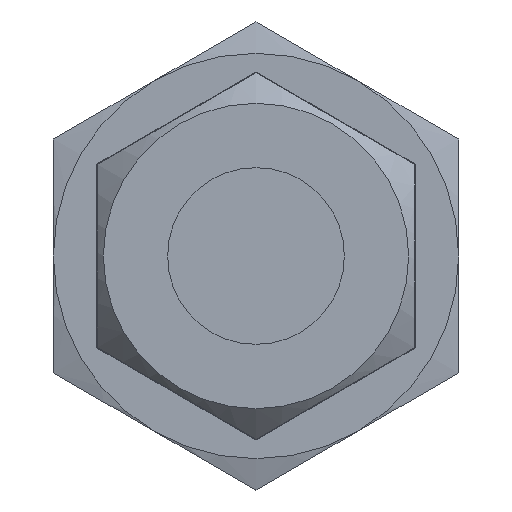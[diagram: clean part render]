
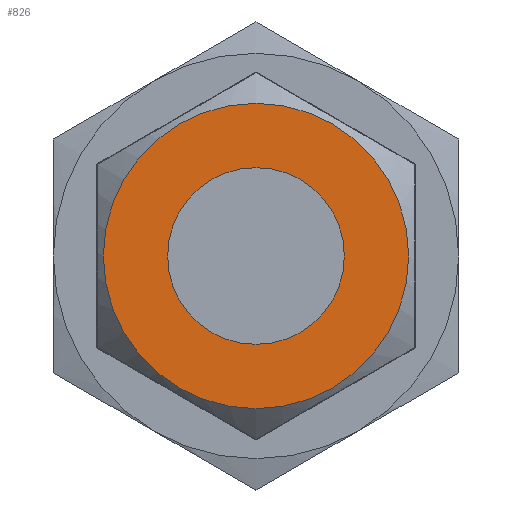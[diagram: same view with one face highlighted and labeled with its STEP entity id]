
A CAD part, left-side view. The second image highlights one B-rep face of the part: STEP entity #826.
In plain terms, the highlighted planar face has unit normal (-1, 0, 0).
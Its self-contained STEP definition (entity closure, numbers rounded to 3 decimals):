
#826 = ADVANCED_FACE( '', ( #1860, #1861 ), #1862, .T. );
#1860 = FACE_BOUND( '', #3173, .T. );
#1861 = FACE_OUTER_BOUND( '', #3174, .T. );
#1862 = PLANE( '', #3175 );
#3173 = EDGE_LOOP( '', ( #5402 ) );
#3174 = EDGE_LOOP( '', ( #5403 ) );
#3175 = AXIS2_PLACEMENT_3D( '', #5404, #5405, #5406 );
#5402 = ORIENTED_EDGE( '', *, *, #6617, .T. );
#5403 = ORIENTED_EDGE( '', *, *, #7031, .F. );
#5404 = CARTESIAN_POINT( '', ( -33.579, 8.47, -8.47 ) );
#5405 = DIRECTION( '', ( -1., 0., 0. ) );
#5406 = DIRECTION( '', ( 0., -1., 0. ) );
#6617 = EDGE_CURVE( '', #7791, #7791, #7792, .T. );
#7031 = EDGE_CURVE( '', #8370, #8370, #8371, .T. );
#7791 = VERTEX_POINT( '', #9788 );
#7792 = CIRCLE( '', #9789, 4.845 );
#8370 = VERTEX_POINT( '', #11095 );
#8371 = CIRCLE( '', #11096, 8.369 );
#9788 = CARTESIAN_POINT( '', ( -33.579, 0., 4.845 ) );
#9789 = AXIS2_PLACEMENT_3D( '', #11618, #11619, #11620 );
#11095 = CARTESIAN_POINT( '', ( -33.579, 0., 8.369 ) );
#11096 = AXIS2_PLACEMENT_3D( '', #11922, #11923, #11924 );
#11618 = CARTESIAN_POINT( '', ( -33.579, 0., 0. ) );
#11619 = DIRECTION( '', ( 1., 0., 0. ) );
#11620 = DIRECTION( '', ( 0., 1., 0. ) );
#11922 = CARTESIAN_POINT( '', ( -33.579, 0., 0. ) );
#11923 = DIRECTION( '', ( 1., 0., 0. ) );
#11924 = DIRECTION( '', ( 0., 1., 0. ) );
